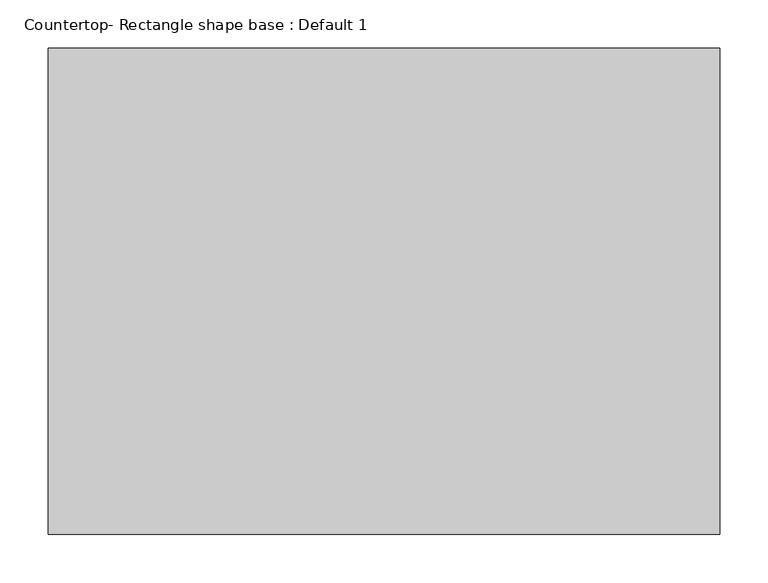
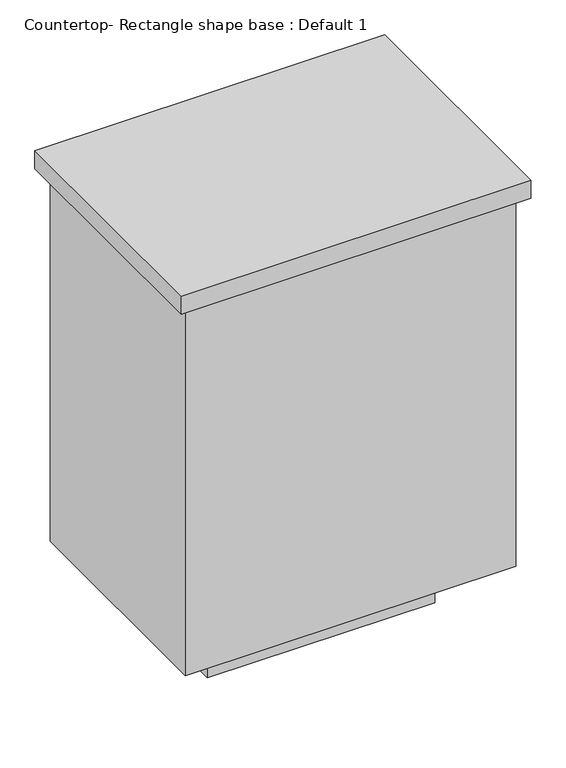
"""IFC4 building model written with IfcOpenShell, lengths in millimetres: proxy geometry, Countertop- Rectangle shape base : Default 1."""

from ifc_helpers import new_model, si_unit, frame, origin, origin_with_axes, place, context, project, spatial, polyline, outline, extrude, source, transform, mapped, element, save


def countertop_rectangle_shape_base_default_1_0ea1dead(model_context):
    return source(origin(), model_context, "Body", "SweptSolid", [
        extrude(outline(polyline([(415.925, 130.175), (415.925, 631.825), (1108.075, 631.825), (1108.075, 130.175), (415.925, 130.175)])), frame((0.0, 0.0, 876.3), z_axis=(0.0, 0.0, 1.0), x_axis=(1.0, 0.0, 0.0)), (0.0, 0.0, 1.0), 38.1),
        extrude(outline(polyline([(1089.025, 612.775), (1089.025, 149.225), (434.975, 149.225), (434.975, 612.775), (1089.025, 612.775)])), frame((0.0, 0.0, 101.6), z_axis=(0.0, 0.0, 1.0), x_axis=(1.0, 0.0, 0.0)), (0.0, 0.0, 1.0), 774.7),
        extrude(outline(polyline([(987.425, 511.175), (987.425, 250.825), (536.575, 250.825), (536.575, 511.175), (987.425, 511.175)])), origin_with_axes(), (0.0, 0.0, 1.0), 101.6),
    ])


if __name__ == "__main__":
    model = new_model("IFC4")
    model_context = context("Model", 3, world=origin())
    ifc_project = project(units=[si_unit("LENGTHUNIT", "METRE", prefix="MILLI")], contexts=[model_context])
    site = spatial("IfcSite", under=ifc_project)
    building = spatial("IfcBuilding", under=site)
    placement = place(None, origin())
    countertop_rectangle_shape_base_default_1_shape = countertop_rectangle_shape_base_default_1_0ea1dead(model_context)
    element("IfcBuildingElementProxy", 1, Name="Countertop- Rectangle shape base : Default 1", ObjectType="Countertop- Rectangle shape base : Default 1", at=placement, inside=building, context=model_context, shape_type="MappedRepresentation", body=[
        mapped(countertop_rectangle_shape_base_default_1_shape, transform((0.0, 0.0, 0.0), x_axis=(1.0, 0.0, 0.0), y_axis=(0.0, 1.0, 0.0), z_axis=(0.0, 0.0, 1.0))),
    ])
    save(model, "model.ifc")
